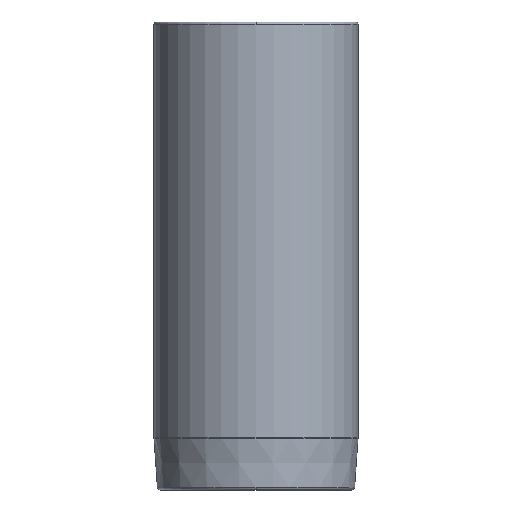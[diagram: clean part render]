
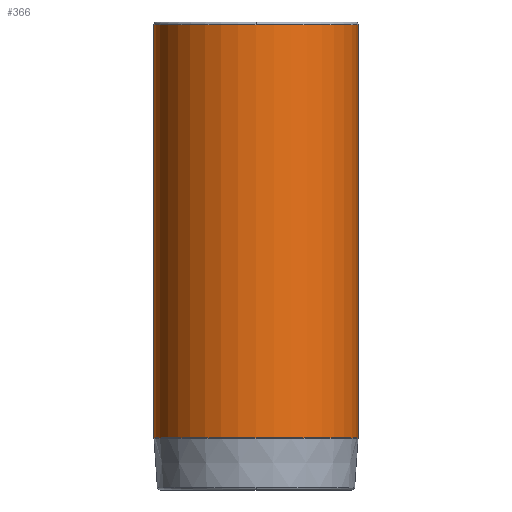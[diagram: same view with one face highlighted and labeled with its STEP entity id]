
A CAD part, front view. The second image highlights one B-rep face of the part: STEP entity #366.
In plain terms, the highlighted cylindrical face has radius 19.625 mm (diameter 39.25 mm), a partial arc.
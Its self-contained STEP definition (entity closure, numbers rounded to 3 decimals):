
#271=CARTESIAN_POINT('',(0.0,-19.625,46.5));
#272=VERTEX_POINT('',#271);
#298=CARTESIAN_POINT('',(-19.625,0.,46.5));
#299=VERTEX_POINT('',#298);
#307=CARTESIAN_POINT('',(0.0,0.,46.5));
#308=DIRECTION('',(0.0,0.0,1.0));
#309=DIRECTION('',(1.0,0.0,0.0));
#310=AXIS2_PLACEMENT_3D('',#307,#308,#309);
#311=CIRCLE('',#310,19.625);
#312=EDGE_CURVE('',#299,#272,#311,.T.);
#317=CARTESIAN_POINT('',(0.0,0.,6.767));
#318=DIRECTION('',(0.0,0.,1.0));
#319=DIRECTION('',(1.0,0.0,0.0));
#320=AXIS2_PLACEMENT_3D('',#317,#318,#319);
#321=CYLINDRICAL_SURFACE('',#320,19.625);
#322=CARTESIAN_POINT('',(19.625,0.,46.5));
#323=VERTEX_POINT('',#322);
#324=CARTESIAN_POINT('',(19.625,0.,-32.965));
#325=VERTEX_POINT('',#324);
#326=CARTESIAN_POINT('',(19.625,0.,46.5));
#327=DIRECTION('',(0.0,0.0,-1.0));
#328=VECTOR('',#327,79.465);
#329=LINE('',#326,#328);
#330=EDGE_CURVE('',#323,#325,#329,.T.);
#331=ORIENTED_EDGE('',*,*,#330,.F.);
#332=CARTESIAN_POINT('',(0.0,0.,46.5));
#333=DIRECTION('',(0.0,0.0,1.0));
#334=DIRECTION('',(1.0,0.0,0.0));
#335=AXIS2_PLACEMENT_3D('',#332,#333,#334);
#336=CIRCLE('',#335,19.625);
#337=EDGE_CURVE('',#272,#323,#336,.T.);
#338=ORIENTED_EDGE('',*,*,#337,.F.);
#339=ORIENTED_EDGE('',*,*,#312,.F.);
#340=CARTESIAN_POINT('',(-19.625,0.,-32.965));
#341=VERTEX_POINT('',#340);
#342=CARTESIAN_POINT('',(-19.625,0.,46.5));
#343=DIRECTION('',(0.0,0.0,-1.0));
#344=VECTOR('',#343,79.465);
#345=LINE('',#342,#344);
#346=EDGE_CURVE('',#299,#341,#345,.T.);
#347=ORIENTED_EDGE('',*,*,#346,.T.);
#348=CARTESIAN_POINT('',(0.0,-19.625,-32.965));
#349=VERTEX_POINT('',#348);
#350=CARTESIAN_POINT('',(0.0,0.,-32.965));
#351=DIRECTION('',(0.0,0.0,1.0));
#352=DIRECTION('',(1.0,0.0,0.0));
#353=AXIS2_PLACEMENT_3D('',#350,#351,#352);
#354=CIRCLE('',#353,19.625);
#355=EDGE_CURVE('',#341,#349,#354,.T.);
#356=ORIENTED_EDGE('',*,*,#355,.T.);
#357=CARTESIAN_POINT('',(0.0,0.,-32.965));
#358=DIRECTION('',(0.0,0.0,1.0));
#359=DIRECTION('',(1.0,0.0,0.0));
#360=AXIS2_PLACEMENT_3D('',#357,#358,#359);
#361=CIRCLE('',#360,19.625);
#362=EDGE_CURVE('',#349,#325,#361,.T.);
#363=ORIENTED_EDGE('',*,*,#362,.T.);
#364=EDGE_LOOP('',(#331,#338,#339,#347,#356,#363));
#365=FACE_OUTER_BOUND('',#364,.T.);
#366=ADVANCED_FACE('',(#365),#321,.T.);
